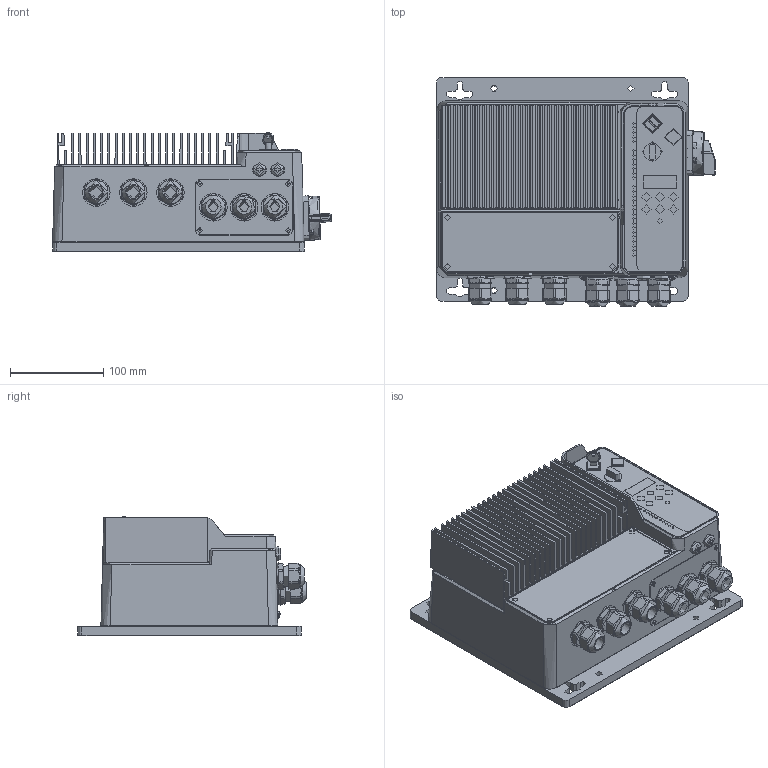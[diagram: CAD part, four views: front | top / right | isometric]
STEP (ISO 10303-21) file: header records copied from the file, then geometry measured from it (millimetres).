
FILE_DESCRIPTION(/* description */ (''),/* implementation_level */ '2;1');
FILE_NAME(/* name */ 'IX210-260511（经济E款发客户).stp',/* time_stamp */ '2026-05-22T15:52:40+08:00',/* author */ (''),/* organization */ (''),/* preprocessor_version */ 'ST-DEVELOPER v19.4',/* originating_system */ 'SIEMENS PLM Software NX2212.7001',/* authorisation */ '');
FILE_SCHEMA (('AUTOMOTIVE_DESIGN { 1 0 10303 214 3 1 1 1 }'));
Products named in the file (1): IX210-260511（经济E款发客户)
_objects
Bounding box: 299.33 x 245.68 x 128.37 mm (x, y, z)
Volume: 5169616.3 mm3; surface area: 509154.6 mm2
Topology: 1 solids, 24 shells, 1897 faces, 4817 edges, 3134 vertices
Faces by surface type: plane 1075, cylinder 577, cone 103, bspline 62, torus 58, extrusion 15, sphere 7
Full cylindrical faces by diameter (mm): 2.5 x28, 3 x30, 3.25 x1, 4.1 x2, 4.5 x2, 5.6 x4, 6 x1, 6.6 x4, 7 x4, 9 x1, 10 x6, 11 x3, 12 x2, 12.5 x2, 14 x3, 15 x2, 16.5 x1, 18.5 x2, 19 x1, 20 x3, 20.2 x3, 20.5 x2, 21.5 x2, 22.3 x6, 25 x6, 29.5 x6
Entity records: 62439 total; most frequent: CARTESIAN_POINT 17739, ORIENTED_EDGE 9206, DIRECTION 8956, EDGE_CURVE 4603, AXIS2_PLACEMENT_3D 3135, VERTEX_POINT 3094, VECTOR 2686, LINE 2671
